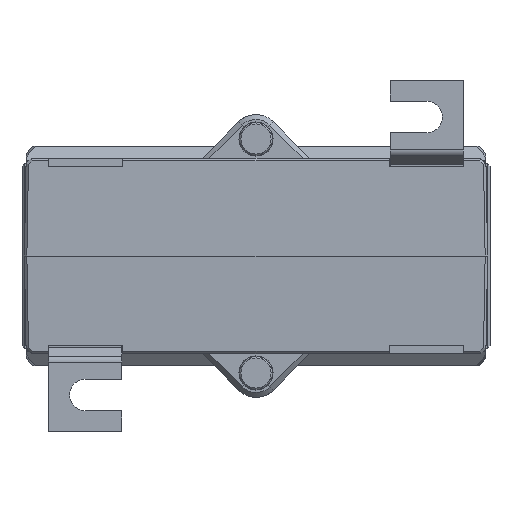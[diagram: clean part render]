
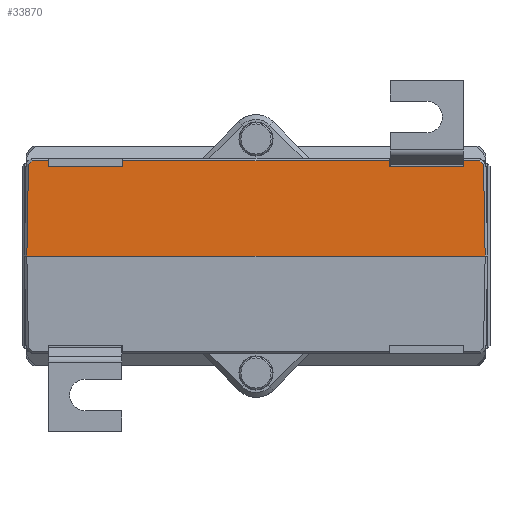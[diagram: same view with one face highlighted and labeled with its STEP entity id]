
A CAD part, front view. The second image highlights one B-rep face of the part: STEP entity #33870.
In plain terms, the highlighted planar face has unit normal (0, -1, 0.018).
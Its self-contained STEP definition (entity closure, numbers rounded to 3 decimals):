
#677=PLANE('',#35893);
#2883=FACE_OUTER_BOUND('',#4747,.T.);
#4747=EDGE_LOOP('',(#23699,#23700,#23701,#23702,#23703,#23704,#23705,#23706,
#23707,#23708,#23709,#23710,#23711,#23712));
#7630=LINE('',#52087,#11226);
#7631=LINE('',#52089,#11227);
#7632=LINE('',#52091,#11228);
#7633=LINE('',#52093,#11229);
#7634=LINE('',#52095,#11230);
#7635=LINE('',#52097,#11231);
#7636=LINE('',#52099,#11232);
#7637=LINE('',#52101,#11233);
#7638=LINE('',#52103,#11234);
#7639=LINE('',#52105,#11235);
#7640=LINE('',#52107,#11236);
#7641=LINE('',#52109,#11237);
#7642=LINE('',#52111,#11238);
#7643=LINE('',#52112,#11239);
#11226=VECTOR('',#39050,1000.);
#11227=VECTOR('',#39051,1000.);
#11228=VECTOR('',#39052,1000.);
#11229=VECTOR('',#39053,1000.);
#11230=VECTOR('',#39054,1000.);
#11231=VECTOR('',#39055,1000.);
#11232=VECTOR('',#39056,1000.);
#11233=VECTOR('',#39057,1000.);
#11234=VECTOR('',#39058,1000.);
#11235=VECTOR('',#39059,1000.);
#11236=VECTOR('',#39060,1000.);
#11237=VECTOR('',#39061,1000.);
#11238=VECTOR('',#39062,1000.);
#11239=VECTOR('',#39063,1000.);
#14985=VERTEX_POINT('',#52085);
#14986=VERTEX_POINT('',#52086);
#14987=VERTEX_POINT('',#52088);
#14988=VERTEX_POINT('',#52090);
#14989=VERTEX_POINT('',#52092);
#14990=VERTEX_POINT('',#52094);
#14991=VERTEX_POINT('',#52096);
#14992=VERTEX_POINT('',#52098);
#14993=VERTEX_POINT('',#52100);
#14994=VERTEX_POINT('',#52102);
#14995=VERTEX_POINT('',#52104);
#14996=VERTEX_POINT('',#52106);
#14997=VERTEX_POINT('',#52108);
#14998=VERTEX_POINT('',#52110);
#18370=EDGE_CURVE('',#14985,#14986,#7630,.T.);
#18371=EDGE_CURVE('',#14986,#14987,#7631,.T.);
#18372=EDGE_CURVE('',#14987,#14988,#7632,.T.);
#18373=EDGE_CURVE('',#14989,#14988,#7633,.T.);
#18374=EDGE_CURVE('',#14989,#14990,#7634,.T.);
#18375=EDGE_CURVE('',#14991,#14990,#7635,.T.);
#18376=EDGE_CURVE('',#14991,#14992,#7636,.T.);
#18377=EDGE_CURVE('',#14993,#14992,#7637,.T.);
#18378=EDGE_CURVE('',#14994,#14993,#7638,.T.);
#18379=EDGE_CURVE('',#14995,#14994,#7639,.T.);
#18380=EDGE_CURVE('',#14995,#14996,#7640,.T.);
#18381=EDGE_CURVE('',#14996,#14997,#7641,.T.);
#18382=EDGE_CURVE('',#14997,#14998,#7642,.T.);
#18383=EDGE_CURVE('',#14985,#14998,#7643,.T.);
#23699=ORIENTED_EDGE('',*,*,#18370,.T.);
#23700=ORIENTED_EDGE('',*,*,#18371,.T.);
#23701=ORIENTED_EDGE('',*,*,#18372,.T.);
#23702=ORIENTED_EDGE('',*,*,#18373,.F.);
#23703=ORIENTED_EDGE('',*,*,#18374,.T.);
#23704=ORIENTED_EDGE('',*,*,#18375,.F.);
#23705=ORIENTED_EDGE('',*,*,#18376,.T.);
#23706=ORIENTED_EDGE('',*,*,#18377,.F.);
#23707=ORIENTED_EDGE('',*,*,#18378,.F.);
#23708=ORIENTED_EDGE('',*,*,#18379,.F.);
#23709=ORIENTED_EDGE('',*,*,#18380,.T.);
#23710=ORIENTED_EDGE('',*,*,#18381,.T.);
#23711=ORIENTED_EDGE('',*,*,#18382,.T.);
#23712=ORIENTED_EDGE('',*,*,#18383,.F.);
#33870=ADVANCED_FACE('',(#2883),#677,.T.);
#35893=AXIS2_PLACEMENT_3D('',#52084,#39048,#39049);
#39048=DIRECTION('center_axis',(0.,-1.,
0.017));
#39049=DIRECTION('ref_axis',(0.,-0.017,-1.));
#39050=DIRECTION('',(-0.017,0.017,1.));
#39051=DIRECTION('',(-0.719,0.012,0.695));
#39052=DIRECTION('',(-1.,0.,0.));
#39053=DIRECTION('',(0.009,0.017,1.));
#39054=DIRECTION('',(-1.,0.,0.));
#39055=DIRECTION('',(0.009,-0.017,-1.));
#39056=DIRECTION('',(-1.,0.,0.));
#39057=DIRECTION('',(0.009,0.017,1.));
#39058=DIRECTION('',(1.,0.,0.));
#39059=DIRECTION('',(0.009,-0.017,-1.));
#39060=DIRECTION('',(-1.,0.,0.));
#39061=DIRECTION('',(-0.719,-0.012,-0.695));
#39062=DIRECTION('',(-0.017,-0.017,-1.));
#39063=DIRECTION('',(-1.,0.,0.));
#52084=CARTESIAN_POINT('Origin',(-47.5,-48.25,0.));
#52085=CARTESIAN_POINT('',(47.,-48.25,0.));
#52086=CARTESIAN_POINT('',(46.672,-47.922,18.775));
#52087=CARTESIAN_POINT('',(46.971,-48.221,1.648));
#52088=CARTESIAN_POINT('',(45.922,-47.91,19.5));
#52089=CARTESIAN_POINT('',(45.781,-47.907,19.636));
#52090=CARTESIAN_POINT('',(42.618,-47.91,19.5));
#52091=CARTESIAN_POINT('',(-46.133,-47.91,19.5));
#52092=CARTESIAN_POINT('',(42.608,-47.929,18.4));
#52093=CARTESIAN_POINT('',(42.441,-48.264,-0.785));
#52094=CARTESIAN_POINT('',(27.392,-47.929,18.4));
#52095=CARTESIAN_POINT('',(-47.5,-47.929,18.4));
#52096=CARTESIAN_POINT('',(27.382,-47.91,19.5));
#52097=CARTESIAN_POINT('',(27.547,-48.239,0.655));
#52098=CARTESIAN_POINT('',(-27.382,-47.91,19.5));
#52099=CARTESIAN_POINT('',(-46.133,-47.91,19.5));
#52100=CARTESIAN_POINT('',(-27.392,-47.929,18.4));
#52101=CARTESIAN_POINT('',(-27.554,-48.253,-0.174));
#52102=CARTESIAN_POINT('',(-42.608,-47.929,18.4));
#52103=CARTESIAN_POINT('',(-47.5,-47.929,18.4));
#52104=CARTESIAN_POINT('',(-42.618,-47.91,19.5));
#52105=CARTESIAN_POINT('',(-42.448,-48.249,0.044));
#52106=CARTESIAN_POINT('',(-45.922,-47.91,19.5));
#52107=CARTESIAN_POINT('',(-46.133,-47.91,19.5));
#52108=CARTESIAN_POINT('',(-46.672,-47.922,18.776));
#52109=CARTESIAN_POINT('',(-46.817,-47.925,18.636));
#52110=CARTESIAN_POINT('',(-47.,-48.25,0.));
#52111=CARTESIAN_POINT('',(-47.,-48.25,-0.009));
#52112=CARTESIAN_POINT('',(47.5,-48.25,0.));
